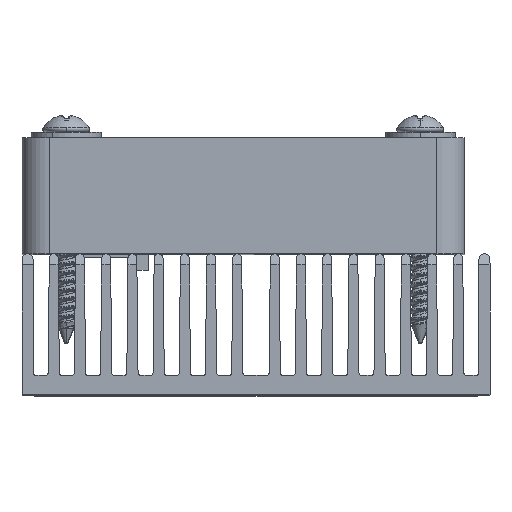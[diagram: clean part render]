
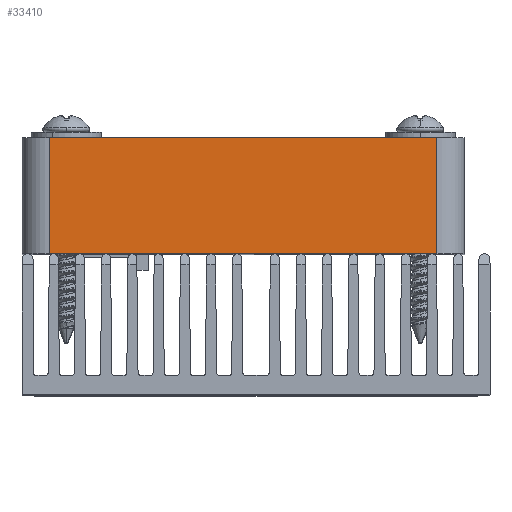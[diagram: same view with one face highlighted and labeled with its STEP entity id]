
A CAD part, top view. The second image highlights one B-rep face of the part: STEP entity #33410.
In plain terms, the highlighted planar face has unit normal (0, 0, 1).
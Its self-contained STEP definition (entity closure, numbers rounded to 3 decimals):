
#1678 = VERTEX_POINT ( 'NONE', #60123 ) ;
#2066 = ORIENTED_EDGE ( 'NONE', *, *, #9378, .F. ) ;
#2209 = VECTOR ( 'NONE', #16488, 1000. ) ;
#4072 = VERTEX_POINT ( 'NONE', #21884 ) ;
#5681 = CARTESIAN_POINT ( 'NONE',  ( 16.35, 23.2, 20. ) ) ;
#7121 = CARTESIAN_POINT ( 'NONE',  ( 16.35, 12.7, 20. ) ) ;
#8513 = LINE ( 'NONE', #21237, #9599 ) ;
#8547 = ORIENTED_EDGE ( 'NONE', *, *, #49330, .T. ) ;
#9057 = PLANE ( 'NONE',  #36073 ) ;
#9378 = EDGE_CURVE ( 'NONE', #23917, #4072, #39452, .T. ) ;
#9599 = VECTOR ( 'NONE', #20930, 1000. ) ;
#11444 = LINE ( 'NONE', #7121, #50535 ) ;
#11615 = CARTESIAN_POINT ( 'NONE',  ( 16.35, 23.2, 20. ) ) ;
#11844 = DIRECTION ( 'NONE',  ( 0., 0., -1. ) ) ;
#16488 = DIRECTION ( 'NONE',  ( 1., 0., 0. ) ) ;
#20542 = CARTESIAN_POINT ( 'NONE',  ( 16.35, 12.7, 20. ) ) ;
#20930 = DIRECTION ( 'NONE',  ( 0., -1., 0. ) ) ;
#21237 = CARTESIAN_POINT ( 'NONE',  ( -18.65, 23.2, 20. ) ) ;
#21540 = CARTESIAN_POINT ( 'NONE',  ( 16.35, 23.2, 20. ) ) ;
#21884 = CARTESIAN_POINT ( 'NONE',  ( 16.35, 23.2, 20. ) ) ;
#23917 = VERTEX_POINT ( 'NONE', #50429 ) ;
#30190 = DIRECTION ( 'NONE',  ( 1., 0., 0. ) ) ;
#31076 = LINE ( 'NONE', #21540, #33948 ) ;
#31679 = ORIENTED_EDGE ( 'NONE', *, *, #31987, .T. ) ;
#31987 = EDGE_CURVE ( 'NONE', #1678, #46656, #11444, .T. ) ;
#33410 = ADVANCED_FACE ( 'NONE', ( #42182 ), #9057, .F. ) ;
#33948 = VECTOR ( 'NONE', #49722, 1000. ) ;
#36073 = AXIS2_PLACEMENT_3D ( 'NONE', #5681, #11844, #52895 ) ;
#39452 = LINE ( 'NONE', #11615, #2209 ) ;
#42182 = FACE_OUTER_BOUND ( 'NONE', #50089, .T. ) ;
#46656 = VERTEX_POINT ( 'NONE', #20542 ) ;
#49330 = EDGE_CURVE ( 'NONE', #23917, #1678, #8513, .T. ) ;
#49722 = DIRECTION ( 'NONE',  ( 0., -1., 0. ) ) ;
#50089 = EDGE_LOOP ( 'NONE', ( #31679, #54710, #2066, #8547 ) ) ;
#50429 = CARTESIAN_POINT ( 'NONE',  ( -18.65, 23.2, 20. ) ) ;
#50535 = VECTOR ( 'NONE', #30190, 1000. ) ;
#52895 = DIRECTION ( 'NONE',  ( -1., 0., 0. ) ) ;
#54710 = ORIENTED_EDGE ( 'NONE', *, *, #58605, .F. ) ;
#58605 = EDGE_CURVE ( 'NONE', #4072, #46656, #31076, .T. ) ;
#60123 = CARTESIAN_POINT ( 'NONE',  ( -18.65, 12.7, 20. ) ) ;
